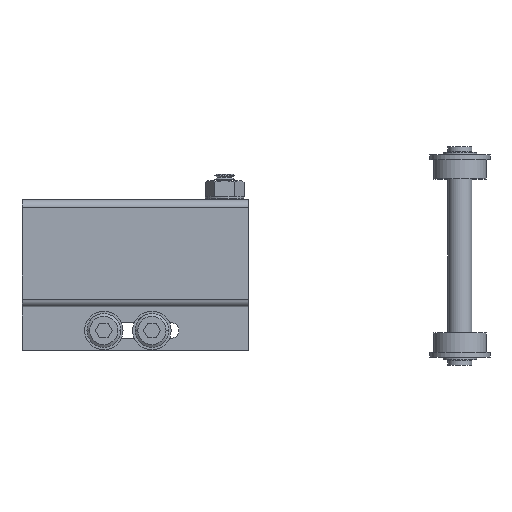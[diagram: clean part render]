
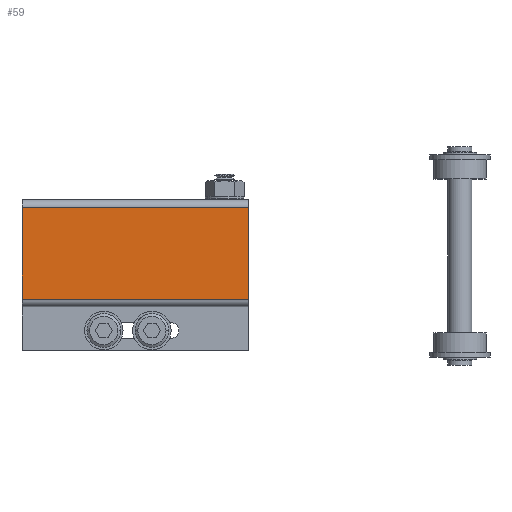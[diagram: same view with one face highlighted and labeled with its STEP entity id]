
A CAD part, top view. The second image highlights one B-rep face of the part: STEP entity #59.
In plain terms, the highlighted planar face has unit normal (0, 0, 1).
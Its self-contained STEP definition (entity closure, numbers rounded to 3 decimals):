
#24=CARTESIAN_POINT('',(188.544,34.23,8.422));
#25=VERTEX_POINT('',#24);
#26=CARTESIAN_POINT('',(141.544,34.23,8.422));
#27=VERTEX_POINT('',#26);
#28=CARTESIAN_POINT('',(188.544,34.23,8.422));
#29=CARTESIAN_POINT('',(141.544,34.23,8.422));
#30=B_SPLINE_CURVE_WITH_KNOTS('',1,(#28,#29),.UNSPECIFIED.,.F.,.F.,(2,2),(0.,47.),.UNSPECIFIED.);
#31=EDGE_CURVE('',#25,#27,#30,.T.);
#32=ORIENTED_EDGE('',*,*,#31,.T.);
#33=CARTESIAN_POINT('',(141.544,15.23,8.422));
#34=VERTEX_POINT('',#33);
#35=CARTESIAN_POINT('',(141.544,34.23,8.422));
#36=CARTESIAN_POINT('',(141.544,15.23,8.422));
#37=B_SPLINE_CURVE_WITH_KNOTS('',1,(#35,#36),.UNSPECIFIED.,.F.,.F.,(2,2),(1.6,20.6),.UNSPECIFIED.);
#38=EDGE_CURVE('',#27,#34,#37,.T.);
#39=ORIENTED_EDGE('',*,*,#38,.T.);
#40=CARTESIAN_POINT('',(188.544,15.23,8.422));
#41=VERTEX_POINT('',#40);
#42=CARTESIAN_POINT('',(141.544,15.23,8.422));
#43=CARTESIAN_POINT('',(188.544,15.23,8.422));
#44=B_SPLINE_CURVE_WITH_KNOTS('',1,(#42,#43),.UNSPECIFIED.,.F.,.F.,(2,2),(0.,47.),.UNSPECIFIED.);
#45=EDGE_CURVE('',#34,#41,#44,.T.);
#46=ORIENTED_EDGE('',*,*,#45,.T.);
#47=CARTESIAN_POINT('',(188.544,15.23,8.422));
#48=CARTESIAN_POINT('',(188.544,34.23,8.422));
#49=B_SPLINE_CURVE_WITH_KNOTS('',1,(#47,#48),.UNSPECIFIED.,.F.,.F.,(2,2),(-20.6,-1.6),.UNSPECIFIED.);
#50=EDGE_CURVE('',#41,#25,#49,.T.);
#51=ORIENTED_EDGE('',*,*,#50,.T.);
#52=EDGE_LOOP('',(#32,#39,#46,#51));
#53=FACE_OUTER_BOUND('',#52,.T.);
#54=CARTESIAN_POINT('',(188.544,15.23,8.422));
#55=DIRECTION('',(0.,0.,-1.));
#56=DIRECTION('',(1.,0.,0.));
#57=AXIS2_PLACEMENT_3D('',#54,#55,#56);
#58=PLANE('',#57);
#59=ADVANCED_FACE('',(#53),#58,.F.);
